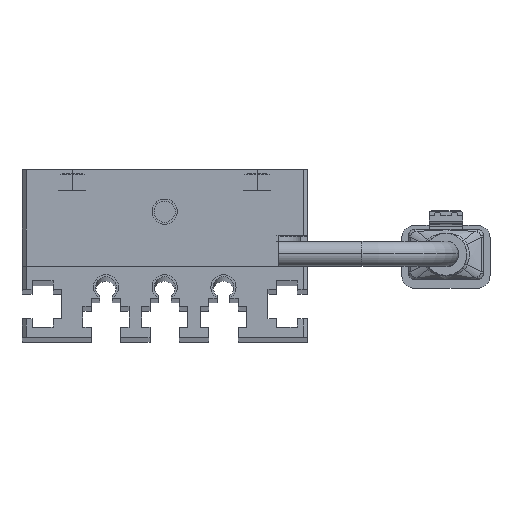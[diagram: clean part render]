
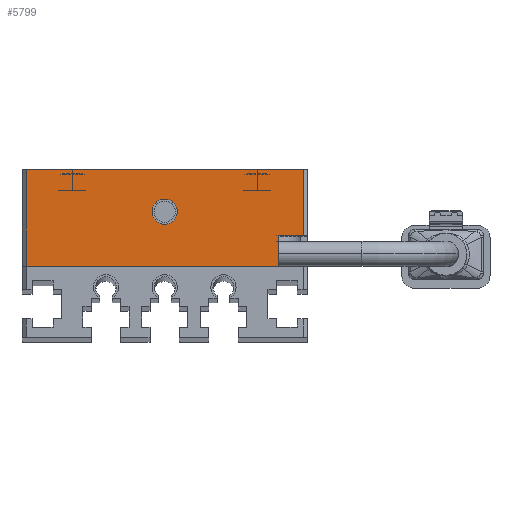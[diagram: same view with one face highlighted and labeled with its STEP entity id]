
A CAD part, top view. The second image highlights one B-rep face of the part: STEP entity #5799.
In plain terms, the highlighted planar face has unit normal (0, 0, 1) as drawn and (0, 0, -1) by its records, which use the part's own axes.
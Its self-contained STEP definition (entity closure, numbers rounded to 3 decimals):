
#48 = LINE ( 'NONE', #3734, #1360 ) ;
#252 = LINE ( 'NONE', #6891, #1246 ) ;
#258 = VECTOR ( 'NONE', #12567, 1000. ) ;
#499 = AXIS2_PLACEMENT_3D ( 'NONE', #5420, #10041, #3013 ) ;
#703 = ORIENTED_EDGE ( 'NONE', *, *, #12399, .F. ) ;
#842 = CARTESIAN_POINT ( 'NONE',  ( 16.5, 11.5, 0. ) ) ;
#858 = ORIENTED_EDGE ( 'NONE', *, *, #3961, .T. ) ;
#1246 = VECTOR ( 'NONE', #9548, 1000. ) ;
#1259 = CARTESIAN_POINT ( 'NONE',  ( 0., 6.5, 0. ) ) ;
#1360 = VECTOR ( 'NONE', #12662, 1000. ) ;
#1393 = CARTESIAN_POINT ( 'NONE',  ( 16.5, 0., 0. ) ) ;
#1890 = VERTEX_POINT ( 'NONE', #842 ) ;
#2087 = ORIENTED_EDGE ( 'NONE', *, *, #7680, .F. ) ;
#2099 = DIRECTION ( 'NONE',  ( 1., 0., 0. ) ) ;
#2567 = VERTEX_POINT ( 'NONE', #12724 ) ;
#2683 = VERTEX_POINT ( 'NONE', #5084 ) ;
#2783 = EDGE_CURVE ( 'NONE', #1890, #2683, #12886, .T. ) ;
#2784 = VERTEX_POINT ( 'NONE', #1393 ) ;
#3013 = DIRECTION ( 'NONE',  ( -1., 0., 0. ) ) ;
#3296 = LINE ( 'NONE', #13590, #3526 ) ;
#3526 = VECTOR ( 'NONE', #7903, 1000. ) ;
#3673 = DIRECTION ( 'NONE',  ( -1., 0., 0. ) ) ;
#3734 = CARTESIAN_POINT ( 'NONE',  ( -16.5, 11.5, 0. ) ) ;
#3887 = VERTEX_POINT ( 'NONE', #4397 ) ;
#3961 = EDGE_CURVE ( 'NONE', #1890, #2784, #13769, .T. ) ;
#4068 = VERTEX_POINT ( 'NONE', #8250 ) ;
#4284 = FACE_BOUND ( 'NONE', #8335, .T. ) ;
#4397 = CARTESIAN_POINT ( 'NONE',  ( -13.5, 0., 0. ) ) ;
#5084 = CARTESIAN_POINT ( 'NONE',  ( -16.5, 11.5, 0. ) ) ;
#5420 = CARTESIAN_POINT ( 'NONE',  ( -17., 11.5, 0. ) ) ;
#5606 = CARTESIAN_POINT ( 'NONE',  ( 16.5, 0., 0. ) ) ;
#5799 = ADVANCED_FACE ( 'NONE', ( #14357, #4284 ), #6489, .T. ) ;
#6077 = DIRECTION ( 'NONE',  ( -1., 0., 0. ) ) ;
#6459 = CARTESIAN_POINT ( 'NONE',  ( 0., 6.5, 0. ) ) ;
#6489 = PLANE ( 'NONE',  #499 ) ;
#6891 = CARTESIAN_POINT ( 'NONE',  ( -13.5, 3., 0. ) ) ;
#6981 = CARTESIAN_POINT ( 'NONE',  ( -13.5, 3.6, 0. ) ) ;
#7127 = CARTESIAN_POINT ( 'NONE',  ( -17., 11.5, 0. ) ) ;
#7422 = EDGE_LOOP ( 'NONE', ( #703, #11962, #11680, #11522, #858, #13220 ) ) ;
#7680 = EDGE_CURVE ( 'NONE', #2567, #4068, #11148, .T. ) ;
#7903 = DIRECTION ( 'NONE',  ( 1., 0., 0. ) ) ;
#7940 = VECTOR ( 'NONE', #6077, 1000. ) ;
#8057 = DIRECTION ( 'NONE',  ( 0., 0., -1. ) ) ;
#8250 = CARTESIAN_POINT ( 'NONE',  ( 1.5, 6.5, 0. ) ) ;
#8335 = EDGE_LOOP ( 'NONE', ( #2087, #10602 ) ) ;
#9548 = DIRECTION ( 'NONE',  ( 0., -1., 0. ) ) ;
#9934 = DIRECTION ( 'NONE',  ( -1., 0., 0. ) ) ;
#10041 = DIRECTION ( 'NONE',  ( 0., 0., -1. ) ) ;
#10266 = CARTESIAN_POINT ( 'NONE',  ( -17., 0., 0. ) ) ;
#10505 = EDGE_CURVE ( 'NONE', #14741, #10940, #3296, .T. ) ;
#10533 = EDGE_CURVE ( 'NONE', #3887, #2784, #12457, .T. ) ;
#10602 = ORIENTED_EDGE ( 'NONE', *, *, #14205, .F. ) ;
#10940 = VERTEX_POINT ( 'NONE', #6981 ) ;
#10995 = EDGE_CURVE ( 'NONE', #14741, #2683, #48, .T. ) ;
#11083 = DIRECTION ( 'NONE',  ( 0., 0., -1. ) ) ;
#11148 = CIRCLE ( 'NONE', #11884, 1.5 ) ;
#11188 = CIRCLE ( 'NONE', #14796, 1.5 ) ;
#11522 = ORIENTED_EDGE ( 'NONE', *, *, #2783, .F. ) ;
#11680 = ORIENTED_EDGE ( 'NONE', *, *, #10995, .T. ) ;
#11739 = CARTESIAN_POINT ( 'NONE',  ( -16.5, 3.6, 0. ) ) ;
#11884 = AXIS2_PLACEMENT_3D ( 'NONE', #6459, #11083, #9934 ) ;
#11962 = ORIENTED_EDGE ( 'NONE', *, *, #10505, .F. ) ;
#12399 = EDGE_CURVE ( 'NONE', #10940, #3887, #252, .T. ) ;
#12457 = LINE ( 'NONE', #10266, #13905 ) ;
#12567 = DIRECTION ( 'NONE',  ( 0., -1., 0. ) ) ;
#12662 = DIRECTION ( 'NONE',  ( 0., 1., 0. ) ) ;
#12724 = CARTESIAN_POINT ( 'NONE',  ( -1.5, 6.5, 0. ) ) ;
#12886 = LINE ( 'NONE', #7127, #7940 ) ;
#13220 = ORIENTED_EDGE ( 'NONE', *, *, #10533, .F. ) ;
#13590 = CARTESIAN_POINT ( 'NONE',  ( -16.5, 3.6, 0. ) ) ;
#13769 = LINE ( 'NONE', #5606, #258 ) ;
#13905 = VECTOR ( 'NONE', #2099, 1000. ) ;
#14205 = EDGE_CURVE ( 'NONE', #4068, #2567, #11188, .T. ) ;
#14357 = FACE_OUTER_BOUND ( 'NONE', #7422, .T. ) ;
#14741 = VERTEX_POINT ( 'NONE', #11739 ) ;
#14796 = AXIS2_PLACEMENT_3D ( 'NONE', #1259, #8057, #3673 ) ;
